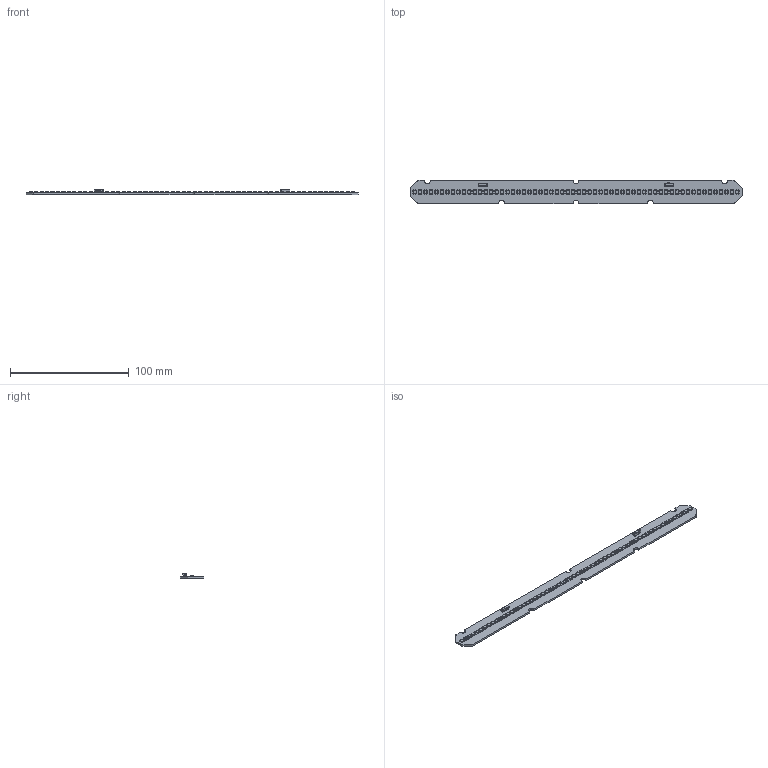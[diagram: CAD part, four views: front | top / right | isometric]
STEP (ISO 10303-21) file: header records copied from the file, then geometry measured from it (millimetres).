
FILE_DESCRIPTION(/* description */ (''),/* implementation_level */ '2;1');
FILE_NAME(/* name */ 'C:\Data\Vault\LE-TPD\9290 029 64600_Fortimo LED Strip 1ft MF UHE FC HV7\Fortimo LED Strip 1ft MF UHE FC HV7 2023-04-06.stp',/* time_stamp */ '2023-04-06T10:23:52+02:00',/* author */ ('600010516'),/* organization */ (''),/* preprocessor_version */ 'ST-DEVELOPER v18.1',/* originating_system */ 'Autodesk Inventor 2022',/* authorisation */ '');
FILE_SCHEMA (('AUTOMOTIVE_DESIGN { 1 0 10303 214 3 1 1 }'));
Products named in the file (1): Fortimo LED Strip 1ft MF UHE FC HV7 2023-04-06
Bounding box: 279.2 x 20 x 4.3 mm (x, y, z)
Volume: 9117.8 mm3; surface area: 13386.2 mm2
Topology: 1 solids, 241 shells, 9142 faces, 25294 edges, 16858 vertices
Faces by surface type: plane 6578, cylinder 2324, cone 240
Entity records: 300001 total; most frequent: CARTESIAN_POINT 51295, ORIENTED_EDGE 50588, DIRECTION 48746, EDGE_CURVE 25294, LINE 20128, VECTOR 20128, VERTEX_POINT 16858, AXIS2_PLACEMENT_3D 14309
